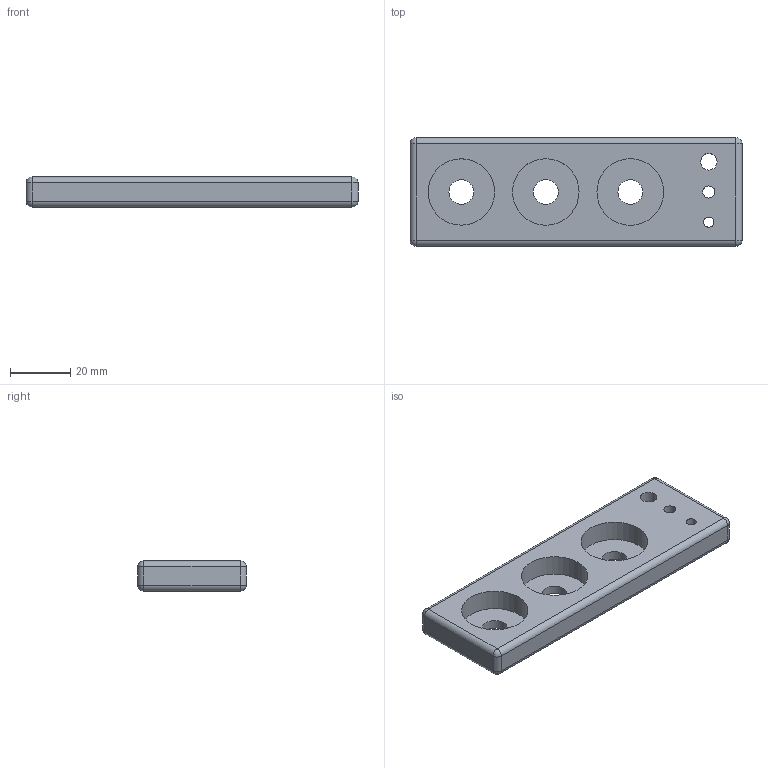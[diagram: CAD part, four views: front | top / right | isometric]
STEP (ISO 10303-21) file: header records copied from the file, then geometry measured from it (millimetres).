
FILE_DESCRIPTION(('Open CASCADE Model'),'2;1');
FILE_NAME('Open CASCADE Shape Model','2026-11-04T08:45:17',('Author'),( 'Open CASCADE'),'Open CASCADE STEP processor 7.8','Open CASCADE 7.8' ,'Unknown');
FILE_SCHEMA(('AUTOMOTIVE_DESIGN { 1 0 10303 214 1 1 1 1 }'));
Length unit declared in the file: millimetre
Products named in the file (1): Open CASCADE STEP translator 7.8 17
Bounding box: 110 x 36 x 10 mm (x, y, z)
Volume: 30126.6 mm3; surface area: 11984 mm2
Topology: 1 solids, 1 shells, 38 faces, 83 edges, 42 vertices
Faces by surface type: cylinder 21, plane 9, sphere 8
Full cylindrical faces by diameter (mm): 3.4 x1, 4 x1, 5.5 x1, 8.2 x3, 22 x1, 22.05 x1, 22.1 x1
Entity records: 1978 total; most frequent: DIRECTION 345, CARTESIAN_POINT 306, LINE 165, VECTOR 165, ORIENTED_EDGE 150, PCURVE 150, DEFINITIONAL_REPRESENTATION 150, AXIS2_PLACEMENT_3D 81
